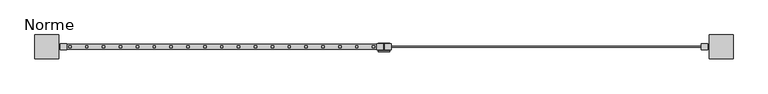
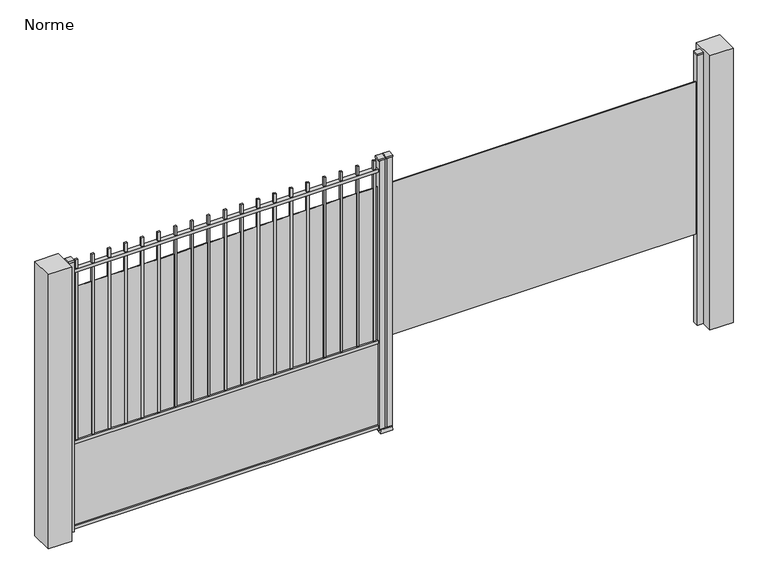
"""IFC4 building model written with IfcOpenShell, lengths in millimetres: geographic element geometry, Portail métal - Double : Norme."""

import ifcopenshell
import ifcopenshell.guid

model = None  # the IFC model being written
_history = None  # IfcOwnerHistory: only IFC2X3 demands one
_inside = {}  # id of a spatial element -> (the spatial element, [elements in it])
_under = {}  # id of a project, library or spatial element -> (it, [spatial elements below it])
_declared = {}  # id of a project -> (the project, [libraries it declares])
_typed = {}  # id of a type object -> (the type object, [elements of that type])
_made_of = {}  # id of a material, layer set ... -> (it, [elements and type objects made of it])


def new_model(schema):
    """Start an empty IFC model of exactly this schema.

    Asked for "IFC4X3", IfcOpenShell would pick the latest addendum, in which some entities
    have other attributes; the version numbers below select the first issue.
    IFC2X3 requires an IfcOwnerHistory on every rooted entity: one is made here for all.
    """
    global model, _history
    if schema == "IFC4X3":
        model = ifcopenshell.file(schema_version=(4, 3, 0, 0))
    else:
        model = ifcopenshell.file(schema=schema)
    _inside.clear()
    _under.clear()
    _declared.clear()
    _typed.clear()
    _made_of.clear()
    _history = None
    if model.schema == "IFC2X3":
        org = make("IfcOrganization", Name="unknown")
        user = make(
            "IfcPersonAndOrganization",
            ThePerson=make("IfcPerson", FamilyName="unknown"),
            TheOrganization=org,
        )
        app = make(
            "IfcApplication",
            ApplicationDeveloper=org,
            Version="unknown",
            ApplicationFullName="unknown",
            ApplicationIdentifier="unknown",
        )
        _history = make(
            "IfcOwnerHistory",
            OwningUser=user,
            OwningApplication=app,
            ChangeAction="ADDED",
            CreationDate=0,
        )
    return model


def make(cls, **values):
    """One entity of the class cls with the attributes given. An attribute that is None is left unset."""
    return model.create_entity(
        cls, **{name: value for name, value in values.items() if value is not None}
    )


def rooted(cls, **values):
    """An entity with a GlobalId (a new one), such as an element, a storey or a relation."""
    return make(cls, GlobalId=ifcopenshell.guid.new(), OwnerHistory=_history, **values)


def si_unit(unit_type, name, prefix=None):
    """IfcSIUnit, for example si_unit("LENGTHUNIT", "METRE", prefix="MILLI")."""
    return make("IfcSIUnit", UnitType=unit_type, Prefix=prefix, Name=name)


def assignment(units):
    """IfcUnitAssignment: the units of a project."""
    return None if units is None else make("IfcUnitAssignment", Units=units)


def point(xyz):
    """IfcCartesianPoint."""
    return None if xyz is None else make("IfcCartesianPoint", Coordinates=xyz)


def direction(xyz):
    """IfcDirection."""
    return None if xyz is None else make("IfcDirection", DirectionRatios=xyz)


def frame(location, z_axis=None, x_axis=None):
    """IfcAxis2Placement3D, a coordinate frame: its origin and axes. An axis left out is left unset."""
    return make(
        "IfcAxis2Placement3D",
        Location=point(location),
        Axis=direction(z_axis),
        RefDirection=direction(x_axis),
    )


def origin():
    """The frame at (0, 0, 0) with its axes left unset."""
    return frame((0.0, 0.0, 0.0))


def origin_with_axes():
    """The frame at (0, 0, 0) with the z axis (0, 0, 1) and the x axis (1, 0, 0) written out."""
    return frame((0.0, 0.0, 0.0), z_axis=(0.0, 0.0, 1.0), x_axis=(1.0, 0.0, 0.0))


def place(relative_to, where):
    """IfcLocalPlacement: puts the frame where relative to a parent placement (None: the world)."""
    return make(
        "IfcLocalPlacement", PlacementRelTo=relative_to, RelativePlacement=where
    )


def context(
    kind, dimensions, precision=None, world=None, true_north=None, identifier=None
):
    """IfcGeometricRepresentationContext, for example the 3D "Model" context."""
    return make(
        "IfcGeometricRepresentationContext",
        ContextIdentifier=identifier,
        ContextType=kind,
        CoordinateSpaceDimension=dimensions,
        Precision=precision,
        WorldCoordinateSystem=world,
        TrueNorth=true_north,
    )


def project(units=None, contexts=None):
    """IfcProject with its units and contexts."""
    return rooted(
        "IfcProject",
        Name="project",
        RepresentationContexts=contexts,
        UnitsInContext=assignment(units),
    )


def spatial(cls, under=None, at=None, **own):
    """A site, building, storey or space (cls), placed at a placement, below another one or the project."""
    s = rooted(cls, ObjectPlacement=at, **own)
    if under is not None:
        _under.setdefault(under.id(), (under, []))[1].append(s)
    return s


def polyline(points):
    """IfcPolyline through the points."""
    return make("IfcPolyline", Points=[point(p) for p in points])


def outline(outer, holes=None, kind="AREA"):
    """IfcArbitraryClosedProfileDef: a profile drawn as a closed curve; with holes, ...WithVoids."""
    if holes is None:
        return make("IfcArbitraryClosedProfileDef", ProfileType=kind, OuterCurve=outer)
    return make(
        "IfcArbitraryProfileDefWithVoids",
        ProfileType=kind,
        OuterCurve=outer,
        InnerCurves=holes,
    )


def extrude(swept, where, along, depth):
    """IfcExtrudedAreaSolid: the profile swept, set in the frame where, extruded along a direction by depth."""
    return make(
        "IfcExtrudedAreaSolid",
        SweptArea=swept,
        Position=where,
        ExtrudedDirection=direction(along),
        Depth=depth,
    )


def faces_of(points, faces, orient=None, outer=None):
    """IfcFace entities. A face is a list of loops; a loop is a list of indices into points, from 0.

    orient and outer hold one flag for each loop. By default every Orientation is true, the
    first loop of a face is its IfcFaceOuterBound and the others are IfcFaceBound.
    """
    made = []
    for i, loops in enumerate(faces):
        bounds = []
        for j, loop in enumerate(loops):
            is_outer = j == 0 if outer is None else outer[i][j]
            bounds.append(
                make(
                    "IfcFaceOuterBound" if is_outer else "IfcFaceBound",
                    Bound=make("IfcPolyLoop", Polygon=[points[k] for k in loop]),
                    Orientation=True if orient is None else orient[i][j],
                )
            )
        made.append(make("IfcFace", Bounds=bounds))
    return made


def faceted_brep(points, faces, orient=None, outer=None, voids=None):
    """IfcFacetedBrep: a solid bounded by flat faces; with voids (closed shells), ...WithVoids."""
    shared = [point(p) for p in points]
    hull = make("IfcClosedShell", CfsFaces=faces_of(shared, faces, orient, outer))
    if voids is None:
        return make("IfcFacetedBrep", Outer=hull)
    return make(
        "IfcFacetedBrepWithVoids",
        Outer=hull,
        Voids=[
            make(cls, CfsFaces=faces_of(shared, fs, o, b)) for cls, fs, o, b in voids
        ],
    )


def shape(context_of_items, identifier, shape_type, items):
    """IfcShapeRepresentation: the items that make up one representation, for example the "Body"."""
    return make(
        "IfcShapeRepresentation",
        ContextOfItems=context_of_items,
        RepresentationIdentifier=identifier,
        RepresentationType=shape_type,
        Items=items,
    )


def source(mapping_origin, context_of_items, identifier, shape_type, items):
    """IfcRepresentationMap: a shape defined once, which mapped items show again and again."""
    return make(
        "IfcRepresentationMap",
        MappingOrigin=mapping_origin,
        MappedRepresentation=shape(context_of_items, identifier, shape_type, items),
    )


def transform(
    local_origin,
    x_axis=None,
    y_axis=None,
    z_axis=None,
    scale=None,
    scale2=None,
    scale3=None,
    uniform=True,
):
    """IfcCartesianTransformationOperator3D, or its non-uniform kind. x_axis, y_axis, z_axis: its Axis1, 2, 3."""
    if uniform:
        return make(
            "IfcCartesianTransformationOperator3D",
            Axis1=direction(x_axis),
            Axis2=direction(y_axis),
            LocalOrigin=point(local_origin),
            Scale=scale,
            Axis3=direction(z_axis),
        )
    return make(
        "IfcCartesianTransformationOperator3DnonUniform",
        Axis1=direction(x_axis),
        Axis2=direction(y_axis),
        LocalOrigin=point(local_origin),
        Scale=scale,
        Axis3=direction(z_axis),
        Scale2=scale2,
        Scale3=scale3,
    )


def mapped(mapping_source, mapping_target):
    """IfcMappedItem: shows the shape of a source again, moved by a transform."""
    return make(
        "IfcMappedItem", MappingSource=mapping_source, MappingTarget=mapping_target
    )


def made_of(thing, what):
    """Note that an element or type object is made of a material, layer set ...; save() writes the relation."""
    if what is not None:
        _made_of.setdefault(what.id(), (what, []))[1].append(thing)
    return thing


def element(
    cls,
    number,
    at=None,
    inside=None,
    cuts=None,
    type_object=None,
    material=None,
    context=None,
    identifier="Body",
    shape_type=None,
    held_by="IfcProductDefinitionShape",
    body=None,
    shapes=None,
    **own,
):
    """One element of the class cls, such as IfcWall. Its Tag is "e" and its number.

    at: its placement. inside: the storey or other place that contains it. cuts: it is an
    opening in that element (IfcRelVoidsElement). A single representation is given by context,
    identifier, shape_type and body (its items); several are given by shapes. held_by: the class
    of the entity that holds the representations. save() writes the other relations.
    """
    e = rooted(cls, Tag="e%d" % number, ObjectPlacement=at, **own)
    if body is not None:
        shapes = [shape(context, identifier, shape_type, body)]
    if shapes is not None:
        e.Representation = make(held_by, Representations=shapes)
    if inside is not None:
        _inside.setdefault(inside.id(), (inside, []))[1].append(e)
    if cuts is not None:
        rooted(
            "IfcRelVoidsElement", RelatingBuildingElement=cuts, RelatedOpeningElement=e
        )
    if type_object is not None:
        _typed.setdefault(type_object.id(), (type_object, []))[1].append(e)
    return made_of(e, material)


def aggregate(whole, parts):
    """IfcRelAggregates: a whole, such as a stair, and the parts it consists of."""
    return rooted("IfcRelAggregates", RelatingObject=whole, RelatedObjects=parts)


def save(model, path):
    """Write the relations noted so far, then the file.

    IfcRelAggregates (storeys below a building ...), IfcRelContainedInSpatialStructure (elements
    in a storey), IfcRelDefinesByType, IfcRelAssociatesMaterial and IfcRelDeclares: one each for
    every whole, place, type object, material and project.
    """
    for whole, parts in _under.values():
        aggregate(whole, parts)
    for where, things in _inside.values():
        rooted(
            "IfcRelContainedInSpatialStructure",
            RelatedElements=things,
            RelatingStructure=where,
        )
    for kind, things in _typed.values():
        rooted("IfcRelDefinesByType", RelatedObjects=things, RelatingType=kind)
    for what, things in _made_of.values():
        rooted("IfcRelAssociatesMaterial", RelatedObjects=things, RelatingMaterial=what)
    for by, libraries in _declared.values():
        rooted("IfcRelDeclares", RelatingContext=by, RelatedDefinitions=libraries)
    model.write(path)


def norme_834bafc0(model_context):
    return source(origin(), model_context, "Body", "SolidModel", [
        faceted_brep([(-91.6068511, -7.5, 65.0), (-91.6068511, -20.0, 65.0), (-91.6068511, -20.0, 40.0), (-91.6068511, 20.0, 40.0), (-91.6068511, 20.0, 65.0), (-91.6068511, 7.5, 65.0), (-91.6068511, 7.5, 813.3333333), (-91.6068511, 20.0, 813.3333333), (-91.6068511, 20.0, 838.3333333), (-91.6068511, 2.5, 838.3333333), (-91.6068511, 2.5, 2230.0), (-91.6068511, -2.5, 2230.0), (-91.6068511, -2.5, 838.3333333), (-91.6068511, -20.0, 838.3333333), (-91.6068511, -20.0, 813.3333333), (-91.6068511, -7.5, 813.3333333), (-91.6068511, 20.0, 2400.0), (-91.6068511, -20.0, 2400.0), (-91.6068511, -20.0, 2375.0), (-91.6068511, 20.0, 2375.0), (-2719.1068511, -20.0, 2400.0), (-2719.1068511, -20.0, 2375.0), (-2719.1068511, 20.0, 2375.0), (-2679.1068511, 7.5, 2375.0), (-2699.1068511, 7.5, 2375.0), (-2699.1068511, -7.5, 2375.0), (-2679.1068511, -7.5, 2375.0), (-2536.4679622, 7.5, 2375.0), (-2556.4679622, 7.5, 2375.0), (-2556.4679622, -7.5, 2375.0), (-2536.4679622, -7.5, 2375.0), (-2393.8290733, 7.5, 2375.0), (-2413.8290733, 7.5, 2375.0), (-2413.8290733, -7.5, 2375.0), (-2393.8290733, -7.5, 2375.0), (-2251.1901844, 7.5, 2375.0), (-2271.1901844, 7.5, 2375.0), (-2271.1901844, -7.5, 2375.0), (-2251.1901844, -7.5, 2375.0), (-2108.5512955, 7.5, 2375.0), (-2128.5512955, 7.5, 2375.0), (-2128.5512955, -7.5, 2375.0), (-2108.5512955, -7.5, 2375.0), (-1965.9124066, 7.5, 2375.0), (-1985.9124066, 7.5, 2375.0), (-1985.9124066, -7.5, 2375.0), (-1965.9124066, -7.5, 2375.0), (-1823.2735177, 7.5, 2375.0), (-1843.2735177, 7.5, 2375.0), (-1843.2735177, -7.5, 2375.0), (-1823.2735177, -7.5, 2375.0), (-1680.6346288, 7.5, 2375.0), (-1700.6346288, 7.5, 2375.0), (-1700.6346288, -7.5, 2375.0), (-1680.6346288, -7.5, 2375.0), (-1537.99574, 7.5, 2375.0), (-1557.99574, 7.5, 2375.0), (-1557.99574, -7.5, 2375.0), (-1537.99574, -7.5, 2375.0), (-1395.3568511, 7.5, 2375.0), (-1415.3568511, 7.5, 2375.0), (-1415.3568511, -7.5, 2375.0), (-1395.3568511, -7.5, 2375.0), (-1252.7179622, 7.5, 2375.0), (-1272.7179622, 7.5, 2375.0), (-1272.7179622, -7.5, 2375.0), (-1252.7179622, -7.5, 2375.0), (-1110.0790733, 7.5, 2375.0), (-1130.0790733, 7.5, 2375.0), (-1130.0790733, -7.5, 2375.0), (-1110.0790733, -7.5, 2375.0), (-967.4401844, 7.5, 2375.0), (-987.4401844, 7.5, 2375.0), (-987.4401844, -7.5, 2375.0), (-967.4401844, -7.5, 2375.0), (-824.8012955, 7.5, 2375.0), (-844.8012955, 7.5, 2375.0), (-844.8012955, -7.5, 2375.0), (-824.8012955, -7.5, 2375.0), (-682.1624066, 7.5, 2375.0), (-702.1624066, 7.5, 2375.0), (-702.1624066, -7.5, 2375.0), (-682.1624066, -7.5, 2375.0), (-539.5235177, 7.5, 2375.0), (-559.5235177, 7.5, 2375.0), (-559.5235177, -7.5, 2375.0), (-539.5235177, -7.5, 2375.0), (-396.8846288, 7.5, 2375.0), (-416.8846288, 7.5, 2375.0), (-416.8846288, -7.5, 2375.0), (-396.8846288, -7.5, 2375.0), (-254.24574, 7.5, 2375.0), (-274.24574, 7.5, 2375.0), (-274.24574, -7.5, 2375.0), (-254.24574, -7.5, 2375.0), (-111.6068511, 7.5, 2375.0), (-131.6068511, 7.5, 2375.0), (-131.6068511, -7.5, 2375.0), (-111.6068511, -7.5, 2375.0), (-2719.1068511, 20.0, 2400.0), (-2719.1068511, -7.5, 65.0), (-2719.1068511, -20.0, 65.0), (-2719.1068511, -20.0, 40.0), (-2719.1068511, 20.0, 40.0), (-2719.1068511, 20.0, 65.0), (-2719.1068511, 7.5, 65.0), (-2719.1068511, 7.5, 813.3333333), (-2719.1068511, 20.0, 813.3333333), (-2719.1068511, 20.0, 838.3333333), (-2719.1068511, 2.5, 838.3333333), (-2699.1068511, 2.5, 838.3333333), (-2699.1068511, 7.5, 838.3333333), (-2679.1068511, 7.5, 838.3333333), (-2679.1068511, 2.5, 838.3333333), (-2556.4679622, 2.5, 838.3333333), (-2556.4679622, 7.5, 838.3333333), (-2536.4679622, 7.5, 838.3333333), (-2536.4679622, 2.5, 838.3333333), (-2413.8290733, 2.5, 838.3333333), (-2413.8290733, 7.5, 838.3333333), (-2393.8290733, 7.5, 838.3333333), (-2393.8290733, 2.5, 838.3333333), (-2271.1901844, 2.5, 838.3333333), (-2271.1901844, 7.5, 838.3333333), (-2251.1901844, 7.5, 838.3333333), (-2251.1901844, 2.5, 838.3333333), (-2128.5512955, 2.5, 838.3333333), (-2128.5512955, 7.5, 838.3333333), (-2108.5512955, 7.5, 838.3333333), (-2108.5512955, 2.5, 838.3333333), (-1985.9124066, 2.5, 838.3333333), (-1985.9124066, 7.5, 838.3333333), (-1965.9124066, 7.5, 838.3333333), (-1965.9124066, 2.5, 838.3333333), (-1843.2735177, 2.5, 838.3333333), (-1843.2735177, 7.5, 838.3333333), (-1823.2735177, 7.5, 838.3333333), (-1823.2735177, 2.5, 838.3333333), (-1700.6346288, 2.5, 838.3333333), (-1700.6346288, 7.5, 838.3333333), (-1680.6346288, 7.5, 838.3333333), (-1680.6346288, 2.5, 838.3333333), (-1557.99574, 2.5, 838.3333333), (-1557.99574, 7.5, 838.3333333), (-1537.99574, 7.5, 838.3333333), (-1537.99574, 2.5, 838.3333333), (-1415.3568511, 2.5, 838.3333333), (-1415.3568511, 7.5, 838.3333333), (-1395.3568511, 7.5, 838.3333333), (-1395.3568511, 2.5, 838.3333333), (-1272.7179622, 2.5, 838.3333333), (-1272.7179622, 7.5, 838.3333333), (-1252.7179622, 7.5, 838.3333333), (-1252.7179622, 2.5, 838.3333333), (-1130.0790733, 2.5, 838.3333333), (-1130.0790733, 7.5, 838.3333333), (-1110.0790733, 7.5, 838.3333333), (-1110.0790733, 2.5, 838.3333333), (-987.4401844, 2.5, 838.3333333), (-987.4401844, 7.5, 838.3333333), (-967.4401844, 7.5, 838.3333333), (-967.4401844, 2.5, 838.3333333), (-844.8012955, 2.5, 838.3333333), (-844.8012955, 7.5, 838.3333333), (-824.8012955, 7.5, 838.3333333), (-824.8012955, 2.5, 838.3333333), (-702.1624066, 2.5, 838.3333333), (-702.1624066, 7.5, 838.3333333), (-682.1624066, 7.5, 838.3333333), (-682.1624066, 2.5, 838.3333333), (-559.5235177, 2.5, 838.3333333), (-559.5235177, 7.5, 838.3333333), (-539.5235177, 7.5, 838.3333333), (-539.5235177, 2.5, 838.3333333), (-416.8846288, 2.5, 838.3333333), (-416.8846288, 7.5, 838.3333333), (-396.8846288, 7.5, 838.3333333), (-396.8846288, 2.5, 838.3333333), (-274.24574, 2.5, 838.3333333), (-274.24574, 7.5, 838.3333333), (-254.24574, 7.5, 838.3333333), (-254.24574, 2.5, 838.3333333), (-131.6068511, 2.5, 838.3333333), (-131.6068511, 7.5, 838.3333333), (-111.6068511, 7.5, 838.3333333), (-111.6068511, 2.5, 838.3333333), (-2719.1068511, -20.0, 838.3333333), (-111.6068511, -2.5, 838.3333333), (-111.6068511, -7.5, 838.3333333), (-131.6068511, -7.5, 838.3333333), (-131.6068511, -2.5, 838.3333333), (-254.24574, -2.5, 838.3333333), (-254.24574, -7.5, 838.3333333), (-274.24574, -7.5, 838.3333333), (-274.24574, -2.5, 838.3333333), (-396.8846288, -2.5, 838.3333333), (-396.8846288, -7.5, 838.3333333), (-416.8846288, -7.5, 838.3333333), (-416.8846288, -2.5, 838.3333333), (-539.5235177, -2.5, 838.3333333), (-539.5235177, -7.5, 838.3333333), (-559.5235177, -7.5, 838.3333333), (-559.5235177, -2.5, 838.3333333), (-682.1624066, -2.5, 838.3333333), (-682.1624066, -7.5, 838.3333333), (-702.1624066, -7.5, 838.3333333), (-702.1624066, -2.5, 838.3333333), (-824.8012955, -2.5, 838.3333333), (-824.8012955, -7.5, 838.3333333), (-844.8012955, -7.5, 838.3333333), (-844.8012955, -2.5, 838.3333333), (-967.4401844, -2.5, 838.3333333), (-967.4401844, -7.5, 838.3333333), (-987.4401844, -7.5, 838.3333333), (-987.4401844, -2.5, 838.3333333), (-1110.0790733, -2.5, 838.3333333), (-1110.0790733, -7.5, 838.3333333), (-1130.0790733, -7.5, 838.3333333), (-1130.0790733, -2.5, 838.3333333), (-1252.7179622, -2.5, 838.3333333), (-1252.7179622, -7.5, 838.3333333), (-1272.7179622, -7.5, 838.3333333), (-1272.7179622, -2.5, 838.3333333), (-1395.3568511, -2.5, 838.3333333), (-1395.3568511, -7.5, 838.3333333), (-1415.3568511, -7.5, 838.3333333), (-1415.3568511, -2.5, 838.3333333), (-1537.99574, -2.5, 838.3333333), (-1537.99574, -7.5, 838.3333333), (-1557.99574, -7.5, 838.3333333), (-1557.99574, -2.5, 838.3333333), (-1680.6346288, -2.5, 838.3333333), (-1680.6346288, -7.5, 838.3333333), (-1700.6346288, -7.5, 838.3333333), (-1700.6346288, -2.5, 838.3333333), (-1823.2735177, -2.5, 838.3333333), (-1823.2735177, -7.5, 838.3333333), (-1843.2735177, -7.5, 838.3333333), (-1843.2735177, -2.5, 838.3333333), (-1965.9124066, -2.5, 838.3333333), (-1965.9124066, -7.5, 838.3333333), (-1985.9124066, -7.5, 838.3333333), (-1985.9124066, -2.5, 838.3333333), (-2108.5512955, -2.5, 838.3333333), (-2108.5512955, -7.5, 838.3333333), (-2128.5512955, -7.5, 838.3333333), (-2128.5512955, -2.5, 838.3333333), (-2251.1901844, -2.5, 838.3333333), (-2251.1901844, -7.5, 838.3333333), (-2271.1901844, -7.5, 838.3333333), (-2271.1901844, -2.5, 838.3333333), (-2393.8290733, -2.5, 838.3333333), (-2393.8290733, -7.5, 838.3333333), (-2413.8290733, -7.5, 838.3333333), (-2413.8290733, -2.5, 838.3333333), (-2536.4679622, -2.5, 838.3333333), (-2536.4679622, -7.5, 838.3333333), (-2556.4679622, -7.5, 838.3333333), (-2556.4679622, -2.5, 838.3333333), (-2679.1068511, -2.5, 838.3333333), (-2679.1068511, -7.5, 838.3333333), (-2699.1068511, -7.5, 838.3333333), (-2699.1068511, -2.5, 838.3333333), (-2719.1068511, -2.5, 838.3333333), (-111.6068511, 2.5, 2230.0), (-2719.1068511, 2.5, 2230.0), (-2699.1068511, 2.5, 2230.0), (-2679.1068511, 2.5, 2230.0), (-2556.4679622, 2.5, 2230.0), (-2536.4679622, 2.5, 2230.0), (-2413.8290733, 2.5, 2230.0), (-2393.8290733, 2.5, 2230.0), (-2271.1901844, 2.5, 2230.0), (-2251.1901844, 2.5, 2230.0), (-2128.5512955, 2.5, 2230.0), (-2108.5512955, 2.5, 2230.0), (-1985.9124066, 2.5, 2230.0), (-1965.9124066, 2.5, 2230.0), (-1843.2735177, 2.5, 2230.0), (-1823.2735177, 2.5, 2230.0), (-1700.6346288, 2.5, 2230.0), (-1680.6346288, 2.5, 2230.0), (-1557.99574, 2.5, 2230.0), (-1537.99574, 2.5, 2230.0), (-1415.3568511, 2.5, 2230.0), (-1395.3568511, 2.5, 2230.0), (-1272.7179622, 2.5, 2230.0), (-1252.7179622, 2.5, 2230.0), (-1130.0790733, 2.5, 2230.0), (-1110.0790733, 2.5, 2230.0), (-987.4401844, 2.5, 2230.0), (-967.4401844, 2.5, 2230.0), (-844.8012955, 2.5, 2230.0), (-824.8012955, 2.5, 2230.0), (-702.1624066, 2.5, 2230.0), (-682.1624066, 2.5, 2230.0), (-559.5235177, 2.5, 2230.0), (-539.5235177, 2.5, 2230.0), (-416.8846288, 2.5, 2230.0), (-396.8846288, 2.5, 2230.0), (-274.24574, 2.5, 2230.0), (-254.24574, 2.5, 2230.0), (-131.6068511, 2.5, 2230.0), (-111.6068511, -2.5, 2230.0), (-2679.1068511, -2.5, 2230.0), (-2556.4679622, -2.5, 2230.0), (-2536.4679622, -2.5, 2230.0), (-2413.8290733, -2.5, 2230.0), (-2393.8290733, -2.5, 2230.0), (-2271.1901844, -2.5, 2230.0), (-2251.1901844, -2.5, 2230.0), (-2128.5512955, -2.5, 2230.0), (-2108.5512955, -2.5, 2230.0), (-1985.9124066, -2.5, 2230.0), (-1965.9124066, -2.5, 2230.0), (-1843.2735177, -2.5, 2230.0), (-1823.2735177, -2.5, 2230.0), (-1700.6346288, -2.5, 2230.0), (-1680.6346288, -2.5, 2230.0), (-1557.99574, -2.5, 2230.0), (-1537.99574, -2.5, 2230.0), (-1415.3568511, -2.5, 2230.0), (-1395.3568511, -2.5, 2230.0), (-1272.7179622, -2.5, 2230.0), (-1252.7179622, -2.5, 2230.0), (-1130.0790733, -2.5, 2230.0), (-1110.0790733, -2.5, 2230.0), (-987.4401844, -2.5, 2230.0), (-967.4401844, -2.5, 2230.0), (-844.8012955, -2.5, 2230.0), (-824.8012955, -2.5, 2230.0), (-702.1624066, -2.5, 2230.0), (-682.1624066, -2.5, 2230.0), (-559.5235177, -2.5, 2230.0), (-539.5235177, -2.5, 2230.0), (-416.8846288, -2.5, 2230.0), (-396.8846288, -2.5, 2230.0), (-274.24574, -2.5, 2230.0), (-254.24574, -2.5, 2230.0), (-131.6068511, -2.5, 2230.0), (-2719.1068511, -2.5, 2230.0), (-2699.1068511, -2.5, 2230.0), (-2719.1068511, -20.0, 813.3333333), (-2719.1068511, -7.5, 813.3333333), (-2699.1068511, -7.5, 2480.0), (-2699.1068511, 7.5, 2480.0), (-2699.1068511, 7.5, 2400.0), (-2699.1068511, -7.5, 2400.0), (-2679.1068511, 7.5, 2480.0), (-2679.1068511, 7.5, 2400.0), (-2679.1068511, -7.5, 2480.0), (-2679.1068511, -7.5, 2400.0), (-2556.4679622, -7.5, 2480.0), (-2556.4679622, 7.5, 2480.0), (-2556.4679622, 7.5, 2400.0), (-2556.4679622, -7.5, 2400.0), (-2536.4679622, 7.5, 2480.0), (-2536.4679622, 7.5, 2400.0), (-2536.4679622, -7.5, 2480.0), (-2536.4679622, -7.5, 2400.0), (-2413.8290733, -7.5, 2480.0), (-2413.8290733, 7.5, 2480.0), (-2413.8290733, 7.5, 2400.0), (-2413.8290733, -7.5, 2400.0), (-2393.8290733, 7.5, 2480.0), (-2393.8290733, 7.5, 2400.0), (-2393.8290733, -7.5, 2480.0), (-2393.8290733, -7.5, 2400.0), (-2271.1901844, -7.5, 2480.0), (-2271.1901844, 7.5, 2480.0), (-2271.1901844, 7.5, 2400.0), (-2271.1901844, -7.5, 2400.0), (-2251.1901844, 7.5, 2480.0), (-2251.1901844, 7.5, 2400.0), (-2251.1901844, -7.5, 2480.0), (-2251.1901844, -7.5, 2400.0), (-2128.5512955, -7.5, 2480.0), (-2128.5512955, 7.5, 2480.0), (-2128.5512955, 7.5, 2400.0), (-2128.5512955, -7.5, 2400.0), (-2108.5512955, 7.5, 2480.0), (-2108.5512955, 7.5, 2400.0), (-2108.5512955, -7.5, 2480.0), (-2108.5512955, -7.5, 2400.0), (-1985.9124066, -7.5, 2480.0), (-1985.9124066, 7.5, 2480.0), (-1985.9124066, 7.5, 2400.0), (-1985.9124066, -7.5, 2400.0), (-1965.9124066, 7.5, 2480.0), (-1965.9124066, 7.5, 2400.0), (-1965.9124066, -7.5, 2480.0), (-1965.9124066, -7.5, 2400.0), (-1843.2735177, -7.5, 2480.0), (-1843.2735177, 7.5, 2480.0), (-1843.2735177, 7.5, 2400.0), (-1843.2735177, -7.5, 2400.0), (-1823.2735177, 7.5, 2480.0), (-1823.2735177, 7.5, 2400.0), (-1823.2735177, -7.5, 2480.0), (-1823.2735177, -7.5, 2400.0), (-1700.6346288, -7.5, 2480.0), (-1700.6346288, 7.5, 2480.0), (-1700.6346288, 7.5, 2400.0), (-1700.6346288, -7.5, 2400.0), (-1680.6346288, 7.5, 2480.0), (-1680.6346288, 7.5, 2400.0), (-1680.6346288, -7.5, 2480.0), (-1680.6346288, -7.5, 2400.0), (-1557.99574, -7.5, 2480.0), (-1557.99574, 7.5, 2480.0), (-1557.99574, 7.5, 2400.0), (-1557.99574, -7.5, 2400.0), (-1537.99574, 7.5, 2480.0), (-1537.99574, 7.5, 2400.0), (-1537.99574, -7.5, 2480.0), (-1537.99574, -7.5, 2400.0), (-1415.3568511, -7.5, 2480.0), (-1415.3568511, 7.5, 2480.0), (-1415.3568511, 7.5, 2400.0), (-1415.3568511, -7.5, 2400.0), (-1395.3568511, 7.5, 2480.0), (-1395.3568511, 7.5, 2400.0), (-1395.3568511, -7.5, 2480.0), (-1395.3568511, -7.5, 2400.0), (-1272.7179622, -7.5, 2480.0), (-1272.7179622, 7.5, 2480.0), (-1272.7179622, 7.5, 2400.0), (-1272.7179622, -7.5, 2400.0), (-1252.7179622, 7.5, 2480.0), (-1252.7179622, 7.5, 2400.0), (-1252.7179622, -7.5, 2480.0), (-1252.7179622, -7.5, 2400.0), (-1130.0790733, -7.5, 2480.0), (-1130.0790733, 7.5, 2480.0), (-1130.0790733, 7.5, 2400.0), (-1130.0790733, -7.5, 2400.0), (-1110.0790733, 7.5, 2480.0), (-1110.0790733, 7.5, 2400.0), (-1110.0790733, -7.5, 2480.0), (-1110.0790733, -7.5, 2400.0), (-987.4401844, -7.5, 2480.0), (-987.4401844, 7.5, 2480.0), (-987.4401844, 7.5, 2400.0), (-987.4401844, -7.5, 2400.0), (-967.4401844, 7.5, 2480.0), (-967.4401844, 7.5, 2400.0), (-967.4401844, -7.5, 2480.0), (-967.4401844, -7.5, 2400.0), (-844.8012955, -7.5, 2480.0), (-844.8012955, 7.5, 2480.0), (-844.8012955, 7.5, 2400.0), (-844.8012955, -7.5, 2400.0), (-824.8012955, 7.5, 2480.0), (-824.8012955, 7.5, 2400.0), (-824.8012955, -7.5, 2480.0), (-824.8012955, -7.5, 2400.0), (-702.1624066, -7.5, 2480.0), (-702.1624066, 7.5, 2480.0), (-702.1624066, 7.5, 2400.0), (-702.1624066, -7.5, 2400.0), (-682.1624066, 7.5, 2480.0), (-682.1624066, 7.5, 2400.0), (-682.1624066, -7.5, 2480.0), (-682.1624066, -7.5, 2400.0), (-559.5235177, -7.5, 2480.0), (-559.5235177, 7.5, 2480.0), (-559.5235177, 7.5, 2400.0), (-559.5235177, -7.5, 2400.0), (-539.5235177, 7.5, 2480.0), (-539.5235177, 7.5, 2400.0), (-539.5235177, -7.5, 2480.0), (-539.5235177, -7.5, 2400.0), (-416.8846288, -7.5, 2480.0), (-416.8846288, 7.5, 2480.0), (-416.8846288, 7.5, 2400.0), (-416.8846288, -7.5, 2400.0), (-396.8846288, 7.5, 2480.0), (-396.8846288, 7.5, 2400.0), (-396.8846288, -7.5, 2480.0), (-396.8846288, -7.5, 2400.0), (-274.24574, -7.5, 2480.0), (-274.24574, 7.5, 2480.0), (-274.24574, 7.5, 2400.0), (-274.24574, -7.5, 2400.0), (-254.24574, 7.5, 2480.0), (-254.24574, 7.5, 2400.0), (-254.24574, -7.5, 2480.0), (-254.24574, -7.5, 2400.0), (-131.6068511, -7.5, 2480.0), (-131.6068511, 7.5, 2480.0), (-131.6068511, 7.5, 2400.0), (-131.6068511, -7.5, 2400.0), (-111.6068511, 7.5, 2480.0), (-111.6068511, 7.5, 2400.0), (-111.6068511, -7.5, 2480.0), (-111.6068511, -7.5, 2400.0)], [[[0, 1, 2, 3, 4, 5, 6, 7, 8, 9, 10, 11, 12, 13, 14, 15]], [[16, 17, 18, 19]], [[18, 17, 20, 21]], [[19, 18, 21, 22], [23, 24, 25, 26], [27, 28, 29, 30], [31, 32, 33, 34], [35, 36, 37, 38], [39, 40, 41, 42], [43, 44, 45, 46], [47, 48, 49, 50], [51, 52, 53, 54], [55, 56, 57, 58], [59, 60, 61, 62], [63, 64, 65, 66], [67, 68, 69, 70], [71, 72, 73, 74], [75, 76, 77, 78], [79, 80, 81, 82], [83, 84, 85, 86], [87, 88, 89, 90], [91, 92, 93, 94], [95, 96, 97, 98]], [[16, 19, 22, 99]], [[1, 0, 100, 101]], [[2, 1, 101, 102]], [[3, 2, 102, 103]], [[4, 3, 103, 104]], [[5, 4, 104, 105]], [[6, 5, 105, 106]], [[7, 6, 106, 107]], [[8, 7, 107, 108]], [[8, 108, 109, 110, 111, 112, 113, 114, 115, 116, 117, 118, 119, 120, 121, 122, 123, 124, 125, 126, 127, 128, 129, 130, 131, 132, 133, 134, 135, 136, 137, 138, 139, 140, 141, 142, 143, 144, 145, 146, 147, 148, 149, 150, 151, 152, 153, 154, 155, 156, 157, 158, 159, 160, 161, 162, 163, 164, 165, 166, 167, 168, 169, 170, 171, 172, 173, 174, 175, 176, 177, 178, 179, 180, 181, 182, 183, 184, 185, 9]], [[186, 13, 12, 187, 188, 189, 190, 191, 192, 193, 194, 195, 196, 197, 198, 199, 200, 201, 202, 203, 204, 205, 206, 207, 208, 209, 210, 211, 212, 213, 214, 215, 216, 217, 218, 219, 220, 221, 222, 223, 224, 225, 226, 227, 228, 229, 230, 231, 232, 233, 234, 235, 236, 237, 238, 239, 240, 241, 242, 243, 244, 245, 246, 247, 248, 249, 250, 251, 252, 253, 254, 255, 256, 257, 258, 259, 260, 261, 262, 263]], [[10, 9, 185, 264]], [[109, 265, 266, 110]], [[267, 268, 114, 113]], [[269, 270, 118, 117]], [[271, 272, 122, 121]], [[273, 274, 126, 125]], [[275, 276, 130, 129]], [[277, 278, 134, 133]], [[279, 280, 138, 137]], [[281, 282, 142, 141]], [[283, 284, 146, 145]], [[285, 286, 150, 149]], [[287, 288, 154, 153]], [[289, 290, 158, 157]], [[291, 292, 162, 161]], [[293, 294, 166, 165]], [[295, 296, 170, 169]], [[297, 298, 174, 173]], [[299, 300, 178, 177]], [[301, 302, 182, 181]], [[11, 10, 264, 303]], [[268, 267, 304, 305]], [[270, 269, 306, 307]], [[272, 271, 308, 309]], [[274, 273, 310, 311]], [[276, 275, 312, 313]], [[278, 277, 314, 315]], [[280, 279, 316, 317]], [[282, 281, 318, 319]], [[284, 283, 320, 321]], [[286, 285, 322, 323]], [[288, 287, 324, 325]], [[290, 289, 326, 327]], [[292, 291, 328, 329]], [[294, 293, 330, 331]], [[296, 295, 332, 333]], [[298, 297, 334, 335]], [[300, 299, 336, 337]], [[302, 301, 338, 339]], [[265, 340, 341, 266]], [[12, 11, 303, 187]], [[305, 304, 259, 258]], [[307, 306, 255, 254]], [[309, 308, 251, 250]], [[311, 310, 247, 246]], [[313, 312, 243, 242]], [[315, 314, 239, 238]], [[317, 316, 235, 234]], [[319, 318, 231, 230]], [[321, 320, 227, 226]], [[323, 322, 223, 222]], [[325, 324, 219, 218]], [[327, 326, 215, 214]], [[329, 328, 211, 210]], [[331, 330, 207, 206]], [[333, 332, 203, 202]], [[335, 334, 199, 198]], [[337, 336, 195, 194]], [[339, 338, 191, 190]], [[340, 263, 262, 341]], [[14, 13, 186, 342]], [[15, 14, 342, 343]], [[0, 15, 343, 100]], [[99, 22, 21, 20]], [[100, 343, 342, 186, 263, 340, 265, 109, 108, 107, 106, 105, 104, 103, 102, 101]], [[24, 111, 110, 266, 341, 262, 261, 25]], [[344, 345, 346, 347]], [[23, 112, 111, 24]], [[345, 348, 349, 346]], [[112, 23, 26, 260, 259, 304, 267, 113]], [[348, 350, 351, 349]], [[28, 115, 114, 268, 305, 258, 257, 29]], [[352, 353, 354, 355]], [[27, 116, 115, 28]], [[353, 356, 357, 354]], [[116, 27, 30, 256, 255, 306, 269, 117]], [[356, 358, 359, 357]], [[32, 119, 118, 270, 307, 254, 253, 33]], [[360, 361, 362, 363]], [[31, 120, 119, 32]], [[361, 364, 365, 362]], [[120, 31, 34, 252, 251, 308, 271, 121]], [[364, 366, 367, 365]], [[36, 123, 122, 272, 309, 250, 249, 37]], [[368, 369, 370, 371]], [[35, 124, 123, 36]], [[369, 372, 373, 370]], [[124, 35, 38, 248, 247, 310, 273, 125]], [[372, 374, 375, 373]], [[40, 127, 126, 274, 311, 246, 245, 41]], [[376, 377, 378, 379]], [[39, 128, 127, 40]], [[377, 380, 381, 378]], [[128, 39, 42, 244, 243, 312, 275, 129]], [[380, 382, 383, 381]], [[44, 131, 130, 276, 313, 242, 241, 45]], [[384, 385, 386, 387]], [[43, 132, 131, 44]], [[385, 388, 389, 386]], [[132, 43, 46, 240, 239, 314, 277, 133]], [[388, 390, 391, 389]], [[48, 135, 134, 278, 315, 238, 237, 49]], [[392, 393, 394, 395]], [[47, 136, 135, 48]], [[393, 396, 397, 394]], [[136, 47, 50, 236, 235, 316, 279, 137]], [[396, 398, 399, 397]], [[52, 139, 138, 280, 317, 234, 233, 53]], [[400, 401, 402, 403]], [[51, 140, 139, 52]], [[401, 404, 405, 402]], [[140, 51, 54, 232, 231, 318, 281, 141]], [[404, 406, 407, 405]], [[56, 143, 142, 282, 319, 230, 229, 57]], [[408, 409, 410, 411]], [[55, 144, 143, 56]], [[409, 412, 413, 410]], [[144, 55, 58, 228, 227, 320, 283, 145]], [[412, 414, 415, 413]], [[60, 147, 146, 284, 321, 226, 225, 61]], [[416, 417, 418, 419]], [[59, 148, 147, 60]], [[417, 420, 421, 418]], [[148, 59, 62, 224, 223, 322, 285, 149]], [[420, 422, 423, 421]], [[64, 151, 150, 286, 323, 222, 221, 65]], [[424, 425, 426, 427]], [[63, 152, 151, 64]], [[425, 428, 429, 426]], [[152, 63, 66, 220, 219, 324, 287, 153]], [[428, 430, 431, 429]], [[68, 155, 154, 288, 325, 218, 217, 69]], [[432, 433, 434, 435]], [[67, 156, 155, 68]], [[433, 436, 437, 434]], [[156, 67, 70, 216, 215, 326, 289, 157]], [[436, 438, 439, 437]], [[72, 159, 158, 290, 327, 214, 213, 73]], [[440, 441, 442, 443]], [[71, 160, 159, 72]], [[441, 444, 445, 442]], [[160, 71, 74, 212, 211, 328, 291, 161]], [[444, 446, 447, 445]], [[76, 163, 162, 292, 329, 210, 209, 77]], [[448, 449, 450, 451]], [[75, 164, 163, 76]], [[449, 452, 453, 450]], [[164, 75, 78, 208, 207, 330, 293, 165]], [[452, 454, 455, 453]], [[80, 167, 166, 294, 331, 206, 205, 81]], [[456, 457, 458, 459]], [[79, 168, 167, 80]], [[457, 460, 461, 458]], [[168, 79, 82, 204, 203, 332, 295, 169]], [[460, 462, 463, 461]], [[84, 171, 170, 296, 333, 202, 201, 85]], [[464, 465, 466, 467]], [[83, 172, 171, 84]], [[465, 468, 469, 466]], [[172, 83, 86, 200, 199, 334, 297, 173]], [[468, 470, 471, 469]], [[88, 175, 174, 298, 335, 198, 197, 89]], [[472, 473, 474, 475]], [[87, 176, 175, 88]], [[473, 476, 477, 474]], [[176, 87, 90, 196, 195, 336, 299, 177]], [[476, 478, 479, 477]], [[92, 179, 178, 300, 337, 194, 193, 93]], [[480, 481, 482, 483]], [[91, 180, 179, 92]], [[481, 484, 485, 482]], [[180, 91, 94, 192, 191, 338, 301, 181]], [[484, 486, 487, 485]], [[96, 183, 182, 302, 339, 190, 189, 97]], [[488, 489, 490, 491]], [[95, 184, 183, 96]], [[489, 492, 493, 490]], [[184, 95, 98, 188, 187, 303, 264, 185]], [[492, 494, 495, 493]], [[97, 189, 188, 98]], [[494, 488, 491, 495]], [[93, 193, 192, 94]], [[486, 480, 483, 487]], [[89, 197, 196, 90]], [[478, 472, 475, 479]], [[85, 201, 200, 86]], [[470, 464, 467, 471]], [[81, 205, 204, 82]], [[462, 456, 459, 463]], [[77, 209, 208, 78]], [[454, 448, 451, 455]], [[73, 213, 212, 74]], [[446, 440, 443, 447]], [[69, 217, 216, 70]], [[438, 432, 435, 439]], [[65, 221, 220, 66]], [[430, 424, 427, 431]], [[61, 225, 224, 62]], [[422, 416, 419, 423]], [[57, 229, 228, 58]], [[414, 408, 411, 415]], [[53, 233, 232, 54]], [[406, 400, 403, 407]], [[49, 237, 236, 50]], [[398, 392, 395, 399]], [[45, 241, 240, 46]], [[390, 384, 387, 391]], [[41, 245, 244, 42]], [[382, 376, 379, 383]], [[37, 249, 248, 38]], [[374, 368, 371, 375]], [[33, 253, 252, 34]], [[366, 360, 363, 367]], [[29, 257, 256, 30]], [[358, 352, 355, 359]], [[25, 261, 260, 26]], [[350, 344, 347, 351]], [[17, 16, 99, 20], [346, 349, 351, 347], [354, 357, 359, 355], [362, 365, 367, 363], [370, 373, 375, 371], [378, 381, 383, 379], [386, 389, 391, 387], [394, 397, 399, 395], [402, 405, 407, 403], [410, 413, 415, 411], [418, 421, 423, 419], [426, 429, 431, 427], [434, 437, 439, 435], [442, 445, 447, 443], [450, 453, 455, 451], [458, 461, 463, 459], [466, 469, 471, 467], [474, 477, 479, 475], [482, 485, 487, 483], [490, 493, 495, 491]], [[348, 345, 344, 350]], [[356, 353, 352, 358]], [[364, 361, 360, 366]], [[372, 369, 368, 374]], [[380, 377, 376, 382]], [[388, 385, 384, 390]], [[396, 393, 392, 398]], [[404, 401, 400, 406]], [[412, 409, 408, 414]], [[420, 417, 416, 422]], [[428, 425, 424, 430]], [[436, 433, 432, 438]], [[444, 441, 440, 446]], [[452, 449, 448, 454]], [[460, 457, 456, 462]], [[468, 465, 464, 470]], [[476, 473, 472, 478]], [[484, 481, 480, 486]], [[492, 489, 488, 494]]]),
        extrude(outline(polyline([(-2719.1068511, -25.0), (-2769.1068511, -25.0), (-2769.1068511, 25.0), (-2719.1068511, 25.0), (-2719.1068511, -25.0)])), frame((0.0, 0.0, 20.0), z_axis=(0.0, 0.0, 1.0), x_axis=(1.0, 0.0, 0.0)), (0.0, 0.0, 1.0), 2460.0),
        extrude(outline(polyline([(-41.6068511, -25.0), (-91.6068511, -25.0), (-91.6068511, 25.0), (-41.6068511, 25.0), (-41.6068511, -25.0)])), frame((0.0, 0.0, 20.0), z_axis=(0.0, 0.0, 1.0), x_axis=(1.0, 0.0, 0.0)), (0.0, 0.0, 1.0), 2460.0),
        extrude(outline(polyline([(23.3931489, -25.0), (-26.6068511, -25.0), (-26.6068511, 25.0), (23.3931489, 25.0), (23.3931489, -25.0)])), frame((0.0, 0.0, 20.0), z_axis=(0.0, 0.0, 1.0), x_axis=(1.0, 0.0, 0.0)), (0.0, 0.0, 1.0), 2460.0),
        extrude(outline(polyline([(2700.8931489, -25.0), (2650.8931489, -25.0), (2650.8931489, 25.0), (2700.8931489, 25.0), (2700.8931489, -25.0)])), frame((0.0, 0.0, 20.0), z_axis=(0.0, 0.0, 1.0), x_axis=(1.0, 0.0, 0.0)), (0.0, 0.0, 1.0), 2460.0),
        extrude(outline(polyline([(-2784.1068511, -100.0), (-2984.1068511, -100.0), (-2984.1068511, 100.0), (-2784.1068511, 100.0), (-2784.1068511, -100.0)])), origin_with_axes(), (0.0, 0.0, 1.0), 2500.0),
        extrude(outline(polyline([(2915.8931489, -100.0), (2715.8931489, -100.0), (2715.8931489, 100.0), (2915.8931489, 100.0), (2915.8931489, -100.0)])), origin_with_axes(), (0.0, 0.0, 1.0), 2500.0),
        extrude(outline(polyline([(-35.1636057, 30.0), (-25.0, 30.0), (-25.0, 10.0932932), (29.2977398, 10.0932932), (29.2977398, 0.0), (-40.4534151, 0.0), (-35.1636057, 30.0)])), frame((-84.1068511, 0.0, 0.0), z_axis=(1.0, 0.0, 0.0), x_axis=(0.0, 1.0, 0.0)), (0.0, 0.0, 1.0), 100.0),
        extrude(outline(polyline([(2650.8931489, -2.5), (23.3931489, -2.5), (23.3931489, 2.5), (2650.8931489, 2.5), (2650.8931489, -2.5)])), frame((0.0, 0.0, 838.3333333), z_axis=(0.0, 0.0, 1.0), x_axis=(1.0, 0.0, 0.0)), (0.0, 0.0, 1.0), 1391.6666667),
        extrude(outline(polyline([(-2717.1068511, 27.0), (-2717.1068511, -27.0), (-2771.1068511, -27.0), (-2771.1068511, 27.0), (-2717.1068511, 27.0)])), frame((0.0, 0.0, 2480.0), z_axis=(0.0, 0.0, 1.0), x_axis=(1.0, 0.0, 0.0)), (0.0, 0.0, 1.0), 15.0),
        extrude(outline(polyline([(-39.6068511, 27.0), (-39.6068511, -27.0), (-93.6068511, -27.0), (-93.6068511, 27.0), (-39.6068511, 27.0)])), frame((0.0, 0.0, 2480.0), z_axis=(0.0, 0.0, 1.0), x_axis=(1.0, 0.0, 0.0)), (0.0, 0.0, 1.0), 15.0),
        extrude(outline(polyline([(25.3931489, 27.0), (25.3931489, -27.0), (-28.6068511, -27.0), (-28.6068511, 27.0), (25.3931489, 27.0)])), frame((0.0, 0.0, 2480.0), z_axis=(0.0, 0.0, 1.0), x_axis=(1.0, 0.0, 0.0)), (0.0, 0.0, 1.0), 15.0),
        extrude(outline(polyline([(2702.8931489, 27.0), (2702.8931489, -27.0), (2648.8931489, -27.0), (2648.8931489, 27.0), (2702.8931489, 27.0)])), frame((0.0, 0.0, 2480.0), z_axis=(0.0, 0.0, 1.0), x_axis=(1.0, 0.0, 0.0)), (0.0, 0.0, 1.0), 15.0),
    ])


if __name__ == "__main__":
    model = new_model("IFC4")
    model_context = context("Model", 3, world=origin())
    ifc_project = project(units=[si_unit("LENGTHUNIT", "METRE", prefix="MILLI")], contexts=[model_context])
    site = spatial("IfcSite", under=ifc_project)
    building = spatial("IfcBuilding", under=site)
    placement = place(None, origin())
    norme_shape = norme_834bafc0(model_context)
    element("IfcGeographicElement", 1, ObjectType="Portail métal - Double : Norme", at=placement, inside=building, context=model_context, shape_type="MappedRepresentation", body=[
        mapped(norme_shape, transform((0.0, 0.0, 0.0), x_axis=(1.0, 0.0, 0.0), y_axis=(0.0, 1.0, 0.0), z_axis=(0.0, 0.0, 1.0))),
    ])
    save(model, "model.ifc")
